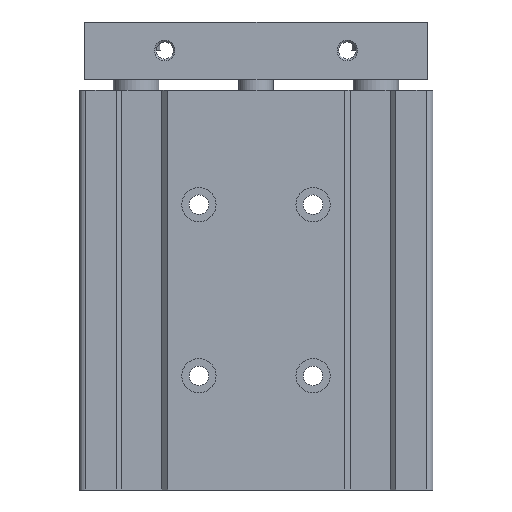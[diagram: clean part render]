
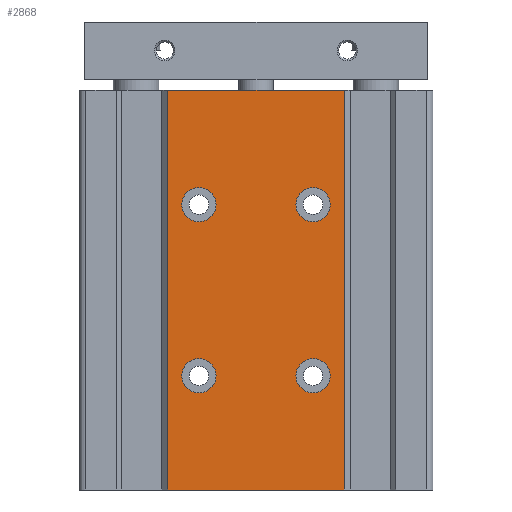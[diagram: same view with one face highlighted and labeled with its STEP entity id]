
A CAD part, left-side view. The second image highlights one B-rep face of the part: STEP entity #2868.
In plain terms, the highlighted planar face has unit normal (-1, 0, 0).
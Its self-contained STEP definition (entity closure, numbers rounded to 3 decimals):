
#869=CARTESIAN_POINT('',(-11.,-15.5,-72.0));
#870=VERTEX_POINT('',#869);
#877=CARTESIAN_POINT('',(-11.,15.5,-72.0));
#878=VERTEX_POINT('',#877);
#879=CARTESIAN_POINT('',(-11.,15.5,-72.0));
#880=DIRECTION('',(0.0,-1.0,0.0));
#881=VECTOR('',#880,31.);
#882=LINE('',#879,#881);
#883=EDGE_CURVE('',#878,#870,#882,.T.);
#1420=CARTESIAN_POINT('',(-11.,-10.0,-49.0));
#1421=VERTEX_POINT('',#1420);
#1422=CARTESIAN_POINT('',(-11.,-10.0,-52.0));
#1423=DIRECTION('',(1.0,0.0,0.0));
#1424=DIRECTION('',(0.0,0.0,-1.0));
#1425=AXIS2_PLACEMENT_3D('',#1422,#1423,#1424);
#1426=CIRCLE('',#1425,3.);
#1427=EDGE_CURVE('',#1421,#1421,#1426,.T.);
#1468=CARTESIAN_POINT('',(-11.,-10.0,-19.0));
#1469=VERTEX_POINT('',#1468);
#1470=CARTESIAN_POINT('',(-11.,-10.0,-22.0));
#1471=DIRECTION('',(1.0,0.0,0.0));
#1472=DIRECTION('',(0.0,0.0,-1.0));
#1473=AXIS2_PLACEMENT_3D('',#1470,#1471,#1472);
#1474=CIRCLE('',#1473,3.0);
#1475=EDGE_CURVE('',#1469,#1469,#1474,.T.);
#1516=CARTESIAN_POINT('',(-11.,10.0,-19.0));
#1517=VERTEX_POINT('',#1516);
#1518=CARTESIAN_POINT('',(-11.,10.0,-22.0));
#1519=DIRECTION('',(1.0,0.0,0.0));
#1520=DIRECTION('',(0.0,0.0,-1.0));
#1521=AXIS2_PLACEMENT_3D('',#1518,#1519,#1520);
#1522=CIRCLE('',#1521,3.);
#1523=EDGE_CURVE('',#1517,#1517,#1522,.T.);
#1564=CARTESIAN_POINT('',(-11.,10.0,-49.));
#1565=VERTEX_POINT('',#1564);
#1566=CARTESIAN_POINT('',(-11.,10.0,-52.0));
#1567=DIRECTION('',(1.0,0.0,0.0));
#1568=DIRECTION('',(0.0,0.0,-1.0));
#1569=AXIS2_PLACEMENT_3D('',#1566,#1567,#1568);
#1570=CIRCLE('',#1569,3.);
#1571=EDGE_CURVE('',#1565,#1565,#1570,.T.);
#2552=CARTESIAN_POINT('',(-11.,-15.5,-2.0));
#2553=VERTEX_POINT('',#2552);
#2560=CARTESIAN_POINT('',(-11.,-15.5,-72.0));
#2561=DIRECTION('',(0.0,0.0,1.0));
#2562=VECTOR('',#2561,70.0);
#2563=LINE('',#2560,#2562);
#2564=EDGE_CURVE('',#870,#2553,#2563,.T.);
#2654=CARTESIAN_POINT('',(-11.,15.5,-2.0));
#2655=VERTEX_POINT('',#2654);
#2656=CARTESIAN_POINT('',(-11.,15.5,-2.0));
#2657=DIRECTION('',(0.0,0.0,-1.0));
#2658=VECTOR('',#2657,70.0);
#2659=LINE('',#2656,#2658);
#2660=EDGE_CURVE('',#2655,#878,#2659,.T.);
#2840=CARTESIAN_POINT('',(-11.,29.8,-2.0));
#2841=DIRECTION('',(-1.0,0.0,0.0));
#2842=DIRECTION('',(0.0,0.0,1.0));
#2843=AXIS2_PLACEMENT_3D('',#2840,#2841,#2842);
#2844=PLANE('',#2843);
#2845=ORIENTED_EDGE('',*,*,#2564,.T.);
#2846=CARTESIAN_POINT('',(-11.,-15.5,-2.0));
#2847=DIRECTION('',(0.0,1.0,0.0));
#2848=VECTOR('',#2847,31.);
#2849=LINE('',#2846,#2848);
#2850=EDGE_CURVE('',#2553,#2655,#2849,.T.);
#2851=ORIENTED_EDGE('',*,*,#2850,.T.);
#2852=ORIENTED_EDGE('',*,*,#2660,.T.);
#2853=ORIENTED_EDGE('',*,*,#883,.T.);
#2854=EDGE_LOOP('',(#2845,#2851,#2852,#2853));
#2855=FACE_OUTER_BOUND('',#2854,.T.);
#2856=ORIENTED_EDGE('',*,*,#1427,.T.);
#2857=EDGE_LOOP('',(#2856));
#2858=FACE_BOUND('',#2857,.T.);
#2859=ORIENTED_EDGE('',*,*,#1475,.T.);
#2860=EDGE_LOOP('',(#2859));
#2861=FACE_BOUND('',#2860,.T.);
#2862=ORIENTED_EDGE('',*,*,#1523,.T.);
#2863=EDGE_LOOP('',(#2862));
#2864=FACE_BOUND('',#2863,.T.);
#2865=ORIENTED_EDGE('',*,*,#1571,.T.);
#2866=EDGE_LOOP('',(#2865));
#2867=FACE_BOUND('',#2866,.T.);
#2868=ADVANCED_FACE('',(#2855,#2858,#2861,#2864,#2867),#2844,.T.);
